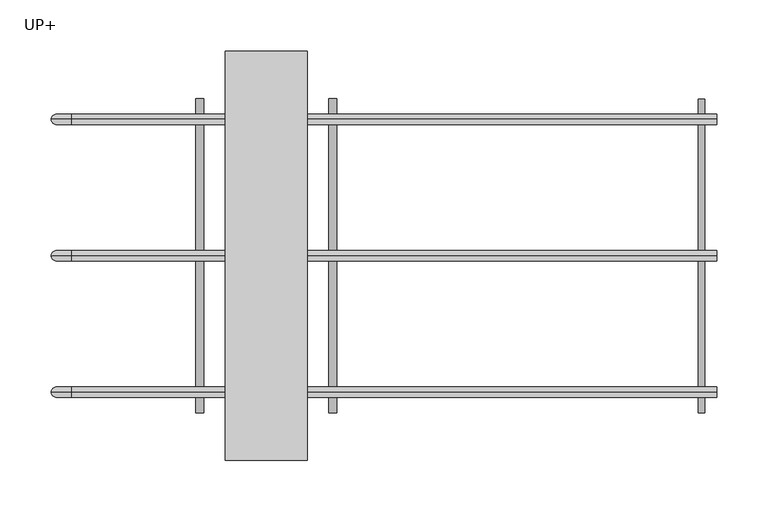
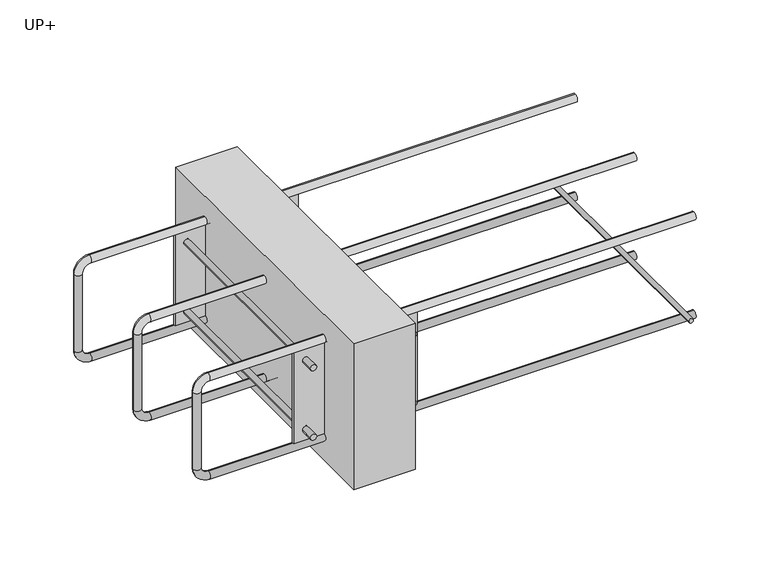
"""IFC4 building model written with IfcOpenShell, lengths in millimetres: fastener geometry, ACINOXplus_Typenreihe_Ux-Ox : UP+."""

import ifcopenshell
import ifcopenshell.guid

model = None  # the IFC model being written
_history = None  # IfcOwnerHistory: only IFC2X3 demands one
_inside = {}  # id of a spatial element -> (the spatial element, [elements in it])
_under = {}  # id of a project, library or spatial element -> (it, [spatial elements below it])
_declared = {}  # id of a project -> (the project, [libraries it declares])
_typed = {}  # id of a type object -> (the type object, [elements of that type])
_made_of = {}  # id of a material, layer set ... -> (it, [elements and type objects made of it])


def new_model(schema):
    """Start an empty IFC model of exactly this schema.

    Asked for "IFC4X3", IfcOpenShell would pick the latest addendum, in which some entities
    have other attributes; the version numbers below select the first issue.
    IFC2X3 requires an IfcOwnerHistory on every rooted entity: one is made here for all.
    """
    global model, _history
    if schema == "IFC4X3":
        model = ifcopenshell.file(schema_version=(4, 3, 0, 0))
    else:
        model = ifcopenshell.file(schema=schema)
    _inside.clear()
    _under.clear()
    _declared.clear()
    _typed.clear()
    _made_of.clear()
    _history = None
    if model.schema == "IFC2X3":
        org = make("IfcOrganization", Name="unknown")
        user = make(
            "IfcPersonAndOrganization",
            ThePerson=make("IfcPerson", FamilyName="unknown"),
            TheOrganization=org,
        )
        app = make(
            "IfcApplication",
            ApplicationDeveloper=org,
            Version="unknown",
            ApplicationFullName="unknown",
            ApplicationIdentifier="unknown",
        )
        _history = make(
            "IfcOwnerHistory",
            OwningUser=user,
            OwningApplication=app,
            ChangeAction="ADDED",
            CreationDate=0,
        )
    return model


def make(cls, **values):
    """One entity of the class cls with the attributes given. An attribute that is None is left unset."""
    return model.create_entity(
        cls, **{name: value for name, value in values.items() if value is not None}
    )


def rooted(cls, **values):
    """An entity with a GlobalId (a new one), such as an element, a storey or a relation."""
    return make(cls, GlobalId=ifcopenshell.guid.new(), OwnerHistory=_history, **values)


def si_unit(unit_type, name, prefix=None):
    """IfcSIUnit, for example si_unit("LENGTHUNIT", "METRE", prefix="MILLI")."""
    return make("IfcSIUnit", UnitType=unit_type, Prefix=prefix, Name=name)


def assignment(units):
    """IfcUnitAssignment: the units of a project."""
    return None if units is None else make("IfcUnitAssignment", Units=units)


def point(xyz):
    """IfcCartesianPoint."""
    return None if xyz is None else make("IfcCartesianPoint", Coordinates=xyz)


def direction(xyz):
    """IfcDirection."""
    return None if xyz is None else make("IfcDirection", DirectionRatios=xyz)


def frame(location, z_axis=None, x_axis=None):
    """IfcAxis2Placement3D, a coordinate frame: its origin and axes. An axis left out is left unset."""
    return make(
        "IfcAxis2Placement3D",
        Location=point(location),
        Axis=direction(z_axis),
        RefDirection=direction(x_axis),
    )


def frame_2d(location, x_axis=None):
    """IfcAxis2Placement2D, a coordinate frame in the plane: its origin and x axis."""
    return make(
        "IfcAxis2Placement2D", Location=point(location), RefDirection=direction(x_axis)
    )


def origin():
    """The frame at (0, 0, 0) with its axes left unset."""
    return frame((0.0, 0.0, 0.0))


def place(relative_to, where):
    """IfcLocalPlacement: puts the frame where relative to a parent placement (None: the world)."""
    return make(
        "IfcLocalPlacement", PlacementRelTo=relative_to, RelativePlacement=where
    )


def context(
    kind, dimensions, precision=None, world=None, true_north=None, identifier=None
):
    """IfcGeometricRepresentationContext, for example the 3D "Model" context."""
    return make(
        "IfcGeometricRepresentationContext",
        ContextIdentifier=identifier,
        ContextType=kind,
        CoordinateSpaceDimension=dimensions,
        Precision=precision,
        WorldCoordinateSystem=world,
        TrueNorth=true_north,
    )


def project(units=None, contexts=None):
    """IfcProject with its units and contexts."""
    return rooted(
        "IfcProject",
        Name="project",
        RepresentationContexts=contexts,
        UnitsInContext=assignment(units),
    )


def spatial(cls, under=None, at=None, **own):
    """A site, building, storey or space (cls), placed at a placement, below another one or the project."""
    s = rooted(cls, ObjectPlacement=at, **own)
    if under is not None:
        _under.setdefault(under.id(), (under, []))[1].append(s)
    return s


def polyline(points):
    """IfcPolyline through the points."""
    return make("IfcPolyline", Points=[point(p) for p in points])


def circle_curve(where, radius):
    """IfcCircle in the frame where."""
    return make("IfcCircle", Position=where, Radius=radius)


def ellipse_curve(where, semi_axis1, semi_axis2):
    """IfcEllipse in the frame where."""
    return make(
        "IfcEllipse", Position=where, SemiAxis1=semi_axis1, SemiAxis2=semi_axis2
    )


def trimmed(basis, trim1, trim2, sense, master):
    """IfcTrimmedCurve: the piece of a basis curve between two trims."""
    return make(
        "IfcTrimmedCurve",
        BasisCurve=basis,
        Trim1=trim1,
        Trim2=trim2,
        SenseAgreement=sense,
        MasterRepresentation=master,
    )


def segment(curve, same_sense, transition):
    """IfcCompositeCurveSegment."""
    return make(
        "IfcCompositeCurveSegment",
        Transition=transition,
        SameSense=same_sense,
        ParentCurve=curve,
    )


def composite_curve(segments, self_intersect=None):
    """IfcCompositeCurve: segments joined end to end."""
    return make("IfcCompositeCurve", Segments=segments, SelfIntersect=self_intersect)


def outline(outer, holes=None, kind="AREA"):
    """IfcArbitraryClosedProfileDef: a profile drawn as a closed curve; with holes, ...WithVoids."""
    if holes is None:
        return make("IfcArbitraryClosedProfileDef", ProfileType=kind, OuterCurve=outer)
    return make(
        "IfcArbitraryProfileDefWithVoids",
        ProfileType=kind,
        OuterCurve=outer,
        InnerCurves=holes,
    )


def extrude(swept, where, along, depth):
    """IfcExtrudedAreaSolid: the profile swept, set in the frame where, extruded along a direction by depth."""
    return make(
        "IfcExtrudedAreaSolid",
        SweptArea=swept,
        Position=where,
        ExtrudedDirection=direction(along),
        Depth=depth,
    )


def shape(context_of_items, identifier, shape_type, items):
    """IfcShapeRepresentation: the items that make up one representation, for example the "Body"."""
    return make(
        "IfcShapeRepresentation",
        ContextOfItems=context_of_items,
        RepresentationIdentifier=identifier,
        RepresentationType=shape_type,
        Items=items,
    )


def source(mapping_origin, context_of_items, identifier, shape_type, items):
    """IfcRepresentationMap: a shape defined once, which mapped items show again and again."""
    return make(
        "IfcRepresentationMap",
        MappingOrigin=mapping_origin,
        MappedRepresentation=shape(context_of_items, identifier, shape_type, items),
    )


def transform(
    local_origin,
    x_axis=None,
    y_axis=None,
    z_axis=None,
    scale=None,
    scale2=None,
    scale3=None,
    uniform=True,
):
    """IfcCartesianTransformationOperator3D, or its non-uniform kind. x_axis, y_axis, z_axis: its Axis1, 2, 3."""
    if uniform:
        return make(
            "IfcCartesianTransformationOperator3D",
            Axis1=direction(x_axis),
            Axis2=direction(y_axis),
            LocalOrigin=point(local_origin),
            Scale=scale,
            Axis3=direction(z_axis),
        )
    return make(
        "IfcCartesianTransformationOperator3DnonUniform",
        Axis1=direction(x_axis),
        Axis2=direction(y_axis),
        LocalOrigin=point(local_origin),
        Scale=scale,
        Axis3=direction(z_axis),
        Scale2=scale2,
        Scale3=scale3,
    )


def mapped(mapping_source, mapping_target):
    """IfcMappedItem: shows the shape of a source again, moved by a transform."""
    return make(
        "IfcMappedItem", MappingSource=mapping_source, MappingTarget=mapping_target
    )


def made_of(thing, what):
    """Note that an element or type object is made of a material, layer set ...; save() writes the relation."""
    if what is not None:
        _made_of.setdefault(what.id(), (what, []))[1].append(thing)
    return thing


def element(
    cls,
    number,
    at=None,
    inside=None,
    cuts=None,
    type_object=None,
    material=None,
    context=None,
    identifier="Body",
    shape_type=None,
    held_by="IfcProductDefinitionShape",
    body=None,
    shapes=None,
    **own,
):
    """One element of the class cls, such as IfcWall. Its Tag is "e" and its number.

    at: its placement. inside: the storey or other place that contains it. cuts: it is an
    opening in that element (IfcRelVoidsElement). A single representation is given by context,
    identifier, shape_type and body (its items); several are given by shapes. held_by: the class
    of the entity that holds the representations. save() writes the other relations.
    """
    e = rooted(cls, Tag="e%d" % number, ObjectPlacement=at, **own)
    if body is not None:
        shapes = [shape(context, identifier, shape_type, body)]
    if shapes is not None:
        e.Representation = make(held_by, Representations=shapes)
    if inside is not None:
        _inside.setdefault(inside.id(), (inside, []))[1].append(e)
    if cuts is not None:
        rooted(
            "IfcRelVoidsElement", RelatingBuildingElement=cuts, RelatedOpeningElement=e
        )
    if type_object is not None:
        _typed.setdefault(type_object.id(), (type_object, []))[1].append(e)
    return made_of(e, material)


def aggregate(whole, parts):
    """IfcRelAggregates: a whole, such as a stair, and the parts it consists of."""
    return rooted("IfcRelAggregates", RelatingObject=whole, RelatedObjects=parts)


def save(model, path):
    """Write the relations noted so far, then the file.

    IfcRelAggregates (storeys below a building ...), IfcRelContainedInSpatialStructure (elements
    in a storey), IfcRelDefinesByType, IfcRelAssociatesMaterial and IfcRelDeclares: one each for
    every whole, place, type object, material and project.
    """
    for whole, parts in _under.values():
        aggregate(whole, parts)
    for where, things in _inside.values():
        rooted(
            "IfcRelContainedInSpatialStructure",
            RelatedElements=things,
            RelatingStructure=where,
        )
    for kind, things in _typed.values():
        rooted("IfcRelDefinesByType", RelatedObjects=things, RelatingType=kind)
    for what, things in _made_of.values():
        rooted("IfcRelAssociatesMaterial", RelatedObjects=things, RelatingMaterial=what)
    for by, libraries in _declared.values():
        rooted("IfcRelDeclares", RelatingContext=by, RelatedDefinitions=libraries)
    model.write(path)


def plane_surface(at):
    """IfcPlane: the flat surface through the origin of the frame at, square to its z axis."""
    return make("IfcPlane", Position=at)


def cylinder_surface(at, radius):
    """IfcCylindricalSurface: all points at the distance radius from the z axis of the frame at."""
    return make("IfcCylindricalSurface", Position=at, Radius=radius)


def revolved_surface(curve, axis_point, axis_direction):
    """IfcSurfaceOfRevolution: the curve turned about the line through axis_point along axis_direction."""
    return make(
        "IfcSurfaceOfRevolution",
        SweptCurve=make("IfcArbitraryOpenProfileDef", ProfileType="CURVE", Curve=curve),
        AxisPosition=make("IfcAxis1Placement", Location=point(axis_point), Axis=direction(axis_direction)),
    )


def advanced_brep(points, edges, surfaces, faces):
    """IfcAdvancedBrep: a solid bounded by faces that lie on surfaces and meet in shared edges.

    An edge is (start, end): straight between two places in points (the first is 0);
    or (start, end, curve); or (start, end, curve, False) where it runs against its curve.
    A face is (place in surfaces, loops), or (place, loops, False) where it looks against
    its surface's normal. A loop lists edges by number (the first is 1), with a minus sign
    where the edge is run from its end to its start. The first loop is the outer one.
    """
    corners = [point(p) for p in points]
    vertices = [make("IfcVertexPoint", VertexGeometry=c) for c in corners]
    made = []
    for start, end, *more in edges:
        made.append(
            make(
                "IfcEdgeCurve",
                EdgeStart=vertices[start],
                EdgeEnd=vertices[end],
                EdgeGeometry=more[0] if more else make("IfcPolyline", Points=[corners[start], corners[end]]),
                SameSense=more[1] if len(more) > 1 else True,
            )
        )
    hull = []
    for where, loops, *sense in faces:
        bounds = []
        for j, loop in enumerate(loops):
            ring = [make("IfcOrientedEdge", EdgeElement=made[abs(k) - 1], Orientation=k > 0) for k in loop]
            bounds.append(
                make(
                    "IfcFaceOuterBound" if j == 0 else "IfcFaceBound",
                    Bound=make("IfcEdgeLoop", EdgeList=ring),
                    Orientation=True,
                )
            )
        hull.append(make("IfcAdvancedFace", Bounds=bounds, FaceSurface=surfaces[where], SameSense=sense[0] if sense else True))
    return make("IfcAdvancedBrep", Outer=make("IfcClosedShell", CfsFaces=hull))


def up_cd055a8a(model_context):
    return source(origin(), model_context, "Body", "SolidModel", [
        extrude(outline(composite_curve([segment(trimmed(circle_curve(frame_2d((-159.5, 425.0)), 3.0), [point((-159.5, 428.0))], [point((-159.5, 422.0))], False, "CARTESIAN"), True, "CONTINUOUS"), segment(trimmed(circle_curve(frame_2d((-159.5, 425.0)), 3.0), [point((-159.5, 422.0))], [point((-159.5, 428.0))], False, "CARTESIAN"), True, "CONTINUOUS")], self_intersect=False)), frame((0.0, -153.3333333, 0.0), z_axis=(0.0, 1.0, 0.0), x_axis=(0.0, 0.0, 1.0)), (0.0, 0.0, 1.0), 306.6666667),
        extrude(outline(polyline([(40.0, 200.0), (40.0, -200.0), (-40.0, -200.0), (-40.0, 200.0), (40.0, 200.0)])), frame((0.0, 0.0, -200.0), z_axis=(0.0, 0.0, 1.0), x_axis=(1.0, 0.0, 0.0)), (0.0, 0.0, 1.0), 200.0),
        extrude(outline(polyline([(80.0, -131.8333333), (80.0, -134.8333333), (-80.0, -134.8333333), (-80.0, -131.8333333), (80.0, -131.8333333)])), frame((0.0, 0.0, -162.5), z_axis=(0.0, 0.0, 1.0), x_axis=(1.0, 0.0, 0.0)), (0.0, 0.0, 1.0), 125.0),
        extrude(outline(polyline([(80.0, 134.8333333), (80.0, 131.8333333), (-80.0, 131.8333333), (-80.0, 134.8333333), (80.0, 134.8333333)])), frame((0.0, 0.0, -162.5), z_axis=(0.0, 0.0, 1.0), x_axis=(1.0, 0.0, 0.0)), (0.0, 0.0, 1.0), 125.0),
        extrude(outline(composite_curve([segment(trimmed(circle_curve(frame_2d((-147.5, -65.0)), 4.0), [point((-147.5, -69.0))], [point((-147.5, -61.0))], False, "CARTESIAN"), True, "CONTINUOUS"), segment(trimmed(circle_curve(frame_2d((-147.5, -65.0)), 4.0), [point((-147.5, -61.0))], [point((-147.5, -69.0))], False, "CARTESIAN"), True, "CONTINUOUS")], self_intersect=False)), frame((0.0, 134.8333333, 0.0), z_axis=(0.0, 1.0, 0.0), x_axis=(0.0, 0.0, 1.0)), (0.0, 0.0, 1.0), 18.5),
        extrude(outline(composite_curve([segment(trimmed(circle_curve(frame_2d((-147.5, -65.0)), 4.0), [point((-147.5, -61.0))], [point((-147.5, -69.0))], False, "CARTESIAN"), True, "CONTINUOUS"), segment(trimmed(circle_curve(frame_2d((-147.5, -65.0)), 4.0), [point((-147.5, -69.0))], [point((-147.5, -61.0))], False, "CARTESIAN"), True, "CONTINUOUS")], self_intersect=False)), frame((0.0, -153.3333333, 0.0), z_axis=(0.0, 1.0, 0.0), x_axis=(0.0, 0.0, 1.0)), (0.0, 0.0, 1.0), 18.5),
        extrude(outline(composite_curve([segment(trimmed(circle_curve(frame_2d((-147.5, -65.0)), 4.0), [point((-147.5, -69.0))], [point((-147.5, -61.0))], False, "CARTESIAN"), True, "CONTINUOUS"), segment(trimmed(circle_curve(frame_2d((-147.5, -65.0)), 4.0), [point((-147.5, -61.0))], [point((-147.5, -69.0))], False, "CARTESIAN"), True, "CONTINUOUS")], self_intersect=False)), frame((0.0, -131.8333333, 0.0), z_axis=(0.0, 1.0, 0.0), x_axis=(0.0, 0.0, 1.0)), (0.0, 0.0, 1.0), 263.6666667),
        extrude(outline(composite_curve([segment(trimmed(circle_curve(frame_2d((-147.5, 65.0)), 4.0), [point((-147.5, 61.0))], [point((-147.5, 69.0))], False, "CARTESIAN"), True, "CONTINUOUS"), segment(trimmed(circle_curve(frame_2d((-147.5, 65.0)), 4.0), [point((-147.5, 69.0))], [point((-147.5, 61.0))], False, "CARTESIAN"), True, "CONTINUOUS")], self_intersect=False)), frame((0.0, 134.8333333, 0.0), z_axis=(0.0, 1.0, 0.0), x_axis=(0.0, 0.0, 1.0)), (0.0, 0.0, 1.0), 18.5),
        extrude(outline(composite_curve([segment(trimmed(circle_curve(frame_2d((-147.5, 65.0)), 4.0), [point((-147.5, 69.0))], [point((-147.5, 61.0))], False, "CARTESIAN"), True, "CONTINUOUS"), segment(trimmed(circle_curve(frame_2d((-147.5, 65.0)), 4.0), [point((-147.5, 61.0))], [point((-147.5, 69.0))], False, "CARTESIAN"), True, "CONTINUOUS")], self_intersect=False)), frame((0.0, -153.3333333, 0.0), z_axis=(0.0, 1.0, 0.0), x_axis=(0.0, 0.0, 1.0)), (0.0, 0.0, 1.0), 18.5),
        extrude(outline(composite_curve([segment(trimmed(circle_curve(frame_2d((-147.5, 65.0)), 4.0), [point((-147.5, 61.0))], [point((-147.5, 69.0))], False, "CARTESIAN"), True, "CONTINUOUS"), segment(trimmed(circle_curve(frame_2d((-147.5, 65.0)), 4.0), [point((-147.5, 69.0))], [point((-147.5, 61.0))], False, "CARTESIAN"), True, "CONTINUOUS")], self_intersect=False)), frame((0.0, -131.8333333, 0.0), z_axis=(0.0, 1.0, 0.0), x_axis=(0.0, 0.0, 1.0)), (0.0, 0.0, 1.0), 263.6666667),
        extrude(outline(composite_curve([segment(trimmed(circle_curve(frame_2d((-52.5, -65.0)), 4.0), [point((-52.5, -69.0))], [point((-52.5, -61.0))], False, "CARTESIAN"), True, "CONTINUOUS"), segment(trimmed(circle_curve(frame_2d((-52.5, -65.0)), 4.0), [point((-52.5, -61.0))], [point((-52.5, -69.0))], False, "CARTESIAN"), True, "CONTINUOUS")], self_intersect=False)), frame((0.0, 134.8333333, 0.0), z_axis=(0.0, 1.0, 0.0), x_axis=(0.0, 0.0, 1.0)), (0.0, 0.0, 1.0), 18.5),
        extrude(outline(composite_curve([segment(trimmed(circle_curve(frame_2d((-52.5, -65.0)), 4.0), [point((-52.5, -61.0))], [point((-52.5, -69.0))], False, "CARTESIAN"), True, "CONTINUOUS"), segment(trimmed(circle_curve(frame_2d((-52.5, -65.0)), 4.0), [point((-52.5, -69.0))], [point((-52.5, -61.0))], False, "CARTESIAN"), True, "CONTINUOUS")], self_intersect=False)), frame((0.0, -153.3333333, 0.0), z_axis=(0.0, 1.0, 0.0), x_axis=(0.0, 0.0, 1.0)), (0.0, 0.0, 1.0), 18.5),
        extrude(outline(composite_curve([segment(trimmed(circle_curve(frame_2d((-52.5, -65.0)), 4.0), [point((-52.5, -69.0))], [point((-52.5, -61.0))], False, "CARTESIAN"), True, "CONTINUOUS"), segment(trimmed(circle_curve(frame_2d((-52.5, -65.0)), 4.0), [point((-52.5, -61.0))], [point((-52.5, -69.0))], False, "CARTESIAN"), True, "CONTINUOUS")], self_intersect=False)), frame((0.0, -131.8333333, 0.0), z_axis=(0.0, 1.0, 0.0), x_axis=(0.0, 0.0, 1.0)), (0.0, 0.0, 1.0), 263.6666667),
        extrude(outline(composite_curve([segment(trimmed(circle_curve(frame_2d((-52.5, 65.0)), 4.0), [point((-52.5, 61.0))], [point((-52.5, 69.0))], False, "CARTESIAN"), True, "CONTINUOUS"), segment(trimmed(circle_curve(frame_2d((-52.5, 65.0)), 4.0), [point((-52.5, 69.0))], [point((-52.5, 61.0))], False, "CARTESIAN"), True, "CONTINUOUS")], self_intersect=False)), frame((0.0, 134.8333333, 0.0), z_axis=(0.0, 1.0, 0.0), x_axis=(0.0, 0.0, 1.0)), (0.0, 0.0, 1.0), 18.5),
        extrude(outline(composite_curve([segment(trimmed(circle_curve(frame_2d((-52.5, 65.0)), 4.0), [point((-52.5, 69.0))], [point((-52.5, 61.0))], False, "CARTESIAN"), True, "CONTINUOUS"), segment(trimmed(circle_curve(frame_2d((-52.5, 65.0)), 4.0), [point((-52.5, 61.0))], [point((-52.5, 69.0))], False, "CARTESIAN"), True, "CONTINUOUS")], self_intersect=False)), frame((0.0, -153.3333333, 0.0), z_axis=(0.0, 1.0, 0.0), x_axis=(0.0, 0.0, 1.0)), (0.0, 0.0, 1.0), 18.5),
        extrude(outline(composite_curve([segment(trimmed(circle_curve(frame_2d((-52.5, 65.0)), 4.0), [point((-52.5, 61.0))], [point((-52.5, 69.0))], False, "CARTESIAN"), True, "CONTINUOUS"), segment(trimmed(circle_curve(frame_2d((-52.5, 65.0)), 4.0), [point((-52.5, 69.0))], [point((-52.5, 61.0))], False, "CARTESIAN"), True, "CONTINUOUS")], self_intersect=False)), frame((0.0, -131.8333333, 0.0), z_axis=(0.0, 1.0, 0.0), x_axis=(0.0, 0.0, 1.0)), (0.0, 0.0, 1.0), 263.6666667),
        advanced_brep(
        [(440.0, 0.0, -27.5), (440.0, 0.0, -37.5), (-190.0, 0.0, -27.5), (-190.0, 0.0, -37.5), (-200.0, 0.0, -47.5), (-210.0, 0.0, -47.5), (-210.0, 0.0, -152.5), (-200.0, 0.0, -152.5), (-190.0, 0.0, -162.5), (-190.0, 0.0, -172.5), (440.0, 0.0, -172.5), (440.0, 0.0, -162.5)],
        [
            (0, 1, circle_curve(frame((440.0, 0.0, -32.5), z_axis=(1.0, 0.0, 0.0), x_axis=(0.0, 0.0, -1.0)), 5.0)),
            (1, 0, circle_curve(frame((440.0, 0.0, -32.5), z_axis=(1.0, 0.0, 0.0), x_axis=(0.0, 0.0, -1.0)), 5.0)),
            (0, 2),
            (2, 3, circle_curve(frame((-190.0, 0.0, -32.5), z_axis=(1.0, 0.0, 0.0), x_axis=(0.0, 0.0, -1.0)), 5.0)),
            (3, 1),
            (3, 2, circle_curve(frame((-190.0, 0.0, -32.5), z_axis=(1.0, 0.0, 0.0), x_axis=(0.0, 0.0, -1.0)), 5.0)),
            (4, 3, circle_curve(frame((-190.0, 0.0, -47.5), z_axis=(0.0, 1.0, 0.0), x_axis=(0.0, 0.0, 1.0)), 10.0)),
            (2, 5, circle_curve(frame((-190.0, 0.0, -47.5), z_axis=(0.0, -1.0, 0.0), x_axis=(0.0, 0.0, 1.0)), 20.0)),
            (5, 4, circle_curve(frame((-205.0, 0.0, -47.5), z_axis=(0.0, 0.0, 1.0), x_axis=(1.0, 0.0, 0.0)), 5.0)),
            (4, 5, circle_curve(frame((-205.0, 0.0, -47.5), z_axis=(0.0, 0.0, 1.0), x_axis=(1.0, 0.0, 0.0)), 5.0)),
            (5, 6),
            (6, 7, circle_curve(frame((-205.0, 0.0, -152.5), z_axis=(0.0, 0.0, 1.0), x_axis=(1.0, 0.0, 0.0)), 5.0)),
            (7, 4),
            (7, 6, circle_curve(frame((-205.0, 0.0, -152.5), z_axis=(0.0, 0.0, 1.0), x_axis=(1.0, 0.0, 0.0)), 5.0)),
            (8, 7, circle_curve(frame((-190.0, 0.0, -152.5), z_axis=(0.0, 1.0, 0.0), x_axis=(-1.0, 0.0, 0.0)), 10.0)),
            (6, 9, circle_curve(frame((-190.0, 0.0, -152.5), z_axis=(0.0, -1.0, 0.0), x_axis=(-1.0, 0.0, 0.0)), 20.0)),
            (9, 8, circle_curve(frame((-190.0, 0.0, -167.5), z_axis=(-1.0, 0.0, 0.0), x_axis=(0.0, 0.0, 1.0)), 5.0)),
            (8, 9, circle_curve(frame((-190.0, 0.0, -167.5), z_axis=(-1.0, 0.0, 0.0), x_axis=(0.0, 0.0, 1.0)), 5.0)),
            (10, 11, circle_curve(frame((440.0, 0.0, -167.5), z_axis=(1.0, 0.0, 0.0), x_axis=(0.0, 0.0, 1.0)), 5.0)),
            (11, 10, circle_curve(frame((440.0, 0.0, -167.5), z_axis=(1.0, 0.0, 0.0), x_axis=(0.0, 0.0, 1.0)), 5.0)),
            (9, 10),
            (11, 8),
        ],
        [
            plane_surface(frame((440.0, 0.0, -32.5), z_axis=(1.0, 0.0, 0.0), x_axis=(0.0, -1.0, 0.0))),
            cylinder_surface(frame((440.0, 0.0, -32.5), z_axis=(1.0, 0.0, 0.0), x_axis=(0.0, 0.0, -1.0)), 5.0),
            revolved_surface(trimmed(ellipse_curve(frame((-190.0, 0.0, -32.5), z_axis=(1.0, 0.0, 0.0), x_axis=(0.0, 0.0, -1.0)), 5.0, 5.0), [point((-190.0, 0.0, -27.5))], [point((-190.0, 0.0, -37.5))], True, "CARTESIAN"), (-190.0, 0.0, -47.5), (0.0, -1.0, 0.0)),
            revolved_surface(trimmed(ellipse_curve(frame((-190.0, 0.0, -32.5), z_axis=(1.0, 0.0, 0.0), x_axis=(0.0, 0.0, -1.0)), 5.0, 5.0), [point((-190.0, 0.0, -37.5))], [point((-190.0, 0.0, -27.5))], True, "CARTESIAN"), (-190.0, 0.0, -47.5), (0.0, -1.0, 0.0)),
            cylinder_surface(frame((-205.0, 0.0, -47.5), z_axis=(0.0, 0.0, 1.0), x_axis=(1.0, 0.0, 0.0)), 5.0),
            revolved_surface(trimmed(ellipse_curve(frame((-205.0, 0.0, -152.5), z_axis=(0.0, 0.0, 1.0), x_axis=(1.0, 0.0, 0.0)), 5.0, 5.0), [point((-210.0, 0.0, -152.5))], [point((-200.0, 0.0, -152.5))], True, "CARTESIAN"), (-190.0, 0.0, -152.5), (0.0, -1.0, 0.0)),
            revolved_surface(trimmed(ellipse_curve(frame((-205.0, 0.0, -152.5), z_axis=(0.0, 0.0, 1.0), x_axis=(1.0, 0.0, 0.0)), 5.0, 5.0), [point((-200.0, 0.0, -152.5))], [point((-210.0, 0.0, -152.5))], True, "CARTESIAN"), (-190.0, 0.0, -152.5), (0.0, -1.0, 0.0)),
            plane_surface(frame((440.0, 0.0, -167.5), z_axis=(1.0, 0.0, 0.0), x_axis=(0.0, -1.0, 0.0))),
            cylinder_surface(frame((-190.0, 0.0, -167.5), z_axis=(-1.0, 0.0, 0.0), x_axis=(0.0, 0.0, 1.0)), 5.0),
        ],
        [
            (0, [[1, 2]]),
            (1, [[-1, 3, 4, 5]]),
            (1, [[-2, -5, 6, -3]]),
            (2, [[7, -4, 8, 9]]),
            (3, [[-8, -6, -7, 10]]),
            (4, [[-9, 11, 12, 13]]),
            (4, [[-10, -13, 14, -11]]),
            (5, [[15, -12, 16, 17]]),
            (6, [[-16, -14, -15, 18]]),
            (7, [[19, 20]]),
            (8, [[-17, 21, -20, 22]]),
            (8, [[-18, -22, -19, -21]]),
        ],
    ),
        advanced_brep(
        [(440.0, 133.3333333, -27.5), (440.0, 133.3333333, -37.5), (-190.0, 133.3333333, -27.5), (-190.0, 133.3333333, -37.5), (-200.0, 133.3333333, -47.5), (-210.0, 133.3333333, -47.5), (-210.0, 133.3333333, -152.5), (-200.0, 133.3333333, -152.5), (-190.0, 133.3333333, -162.5), (-190.0, 133.3333333, -172.5), (440.0, 133.3333333, -172.5), (440.0, 133.3333333, -162.5)],
        [
            (0, 1, circle_curve(frame((440.0, 133.3333333, -32.5), z_axis=(1.0, 0.0, 0.0), x_axis=(0.0, 0.0, -1.0)), 5.0)),
            (1, 0, circle_curve(frame((440.0, 133.3333333, -32.5), z_axis=(1.0, 0.0, 0.0), x_axis=(0.0, 0.0, -1.0)), 5.0)),
            (0, 2),
            (2, 3, circle_curve(frame((-190.0, 133.3333333, -32.5), z_axis=(1.0, 0.0, 0.0), x_axis=(0.0, 0.0, -1.0)), 5.0)),
            (3, 1),
            (3, 2, circle_curve(frame((-190.0, 133.3333333, -32.5), z_axis=(1.0, 0.0, 0.0), x_axis=(0.0, 0.0, -1.0)), 5.0)),
            (4, 3, circle_curve(frame((-190.0, 133.3333333, -47.5), z_axis=(0.0, 1.0, 0.0), x_axis=(0.0, 0.0, 1.0)), 10.0)),
            (2, 5, circle_curve(frame((-190.0, 133.3333333, -47.5), z_axis=(0.0, -1.0, 0.0), x_axis=(0.0, 0.0, 1.0)), 20.0)),
            (5, 4, circle_curve(frame((-205.0, 133.3333333, -47.5), z_axis=(0.0, 0.0, 1.0), x_axis=(1.0, 0.0, 0.0)), 5.0)),
            (4, 5, circle_curve(frame((-205.0, 133.3333333, -47.5), z_axis=(0.0, 0.0, 1.0), x_axis=(1.0, 0.0, 0.0)), 5.0)),
            (5, 6),
            (6, 7, circle_curve(frame((-205.0, 133.3333333, -152.5), z_axis=(0.0, 0.0, 1.0), x_axis=(1.0, 0.0, 0.0)), 5.0)),
            (7, 4),
            (7, 6, circle_curve(frame((-205.0, 133.3333333, -152.5), z_axis=(0.0, 0.0, 1.0), x_axis=(1.0, 0.0, 0.0)), 5.0)),
            (8, 7, circle_curve(frame((-190.0, 133.3333333, -152.5), z_axis=(0.0, 1.0, 0.0), x_axis=(-1.0, 0.0, 0.0)), 10.0)),
            (6, 9, circle_curve(frame((-190.0, 133.3333333, -152.5), z_axis=(0.0, -1.0, 0.0), x_axis=(-1.0, 0.0, 0.0)), 20.0)),
            (9, 8, circle_curve(frame((-190.0, 133.3333333, -167.5), z_axis=(-1.0, 0.0, 0.0), x_axis=(0.0, 0.0, 1.0)), 5.0)),
            (8, 9, circle_curve(frame((-190.0, 133.3333333, -167.5), z_axis=(-1.0, 0.0, 0.0), x_axis=(0.0, 0.0, 1.0)), 5.0)),
            (10, 11, circle_curve(frame((440.0, 133.3333333, -167.5), z_axis=(1.0, 0.0, 0.0), x_axis=(0.0, 0.0, 1.0)), 5.0)),
            (11, 10, circle_curve(frame((440.0, 133.3333333, -167.5), z_axis=(1.0, 0.0, 0.0), x_axis=(0.0, 0.0, 1.0)), 5.0)),
            (9, 10),
            (11, 8),
        ],
        [
            plane_surface(frame((440.0, 133.3333333, -32.5), z_axis=(1.0, 0.0, 0.0), x_axis=(0.0, -1.0, 0.0))),
            cylinder_surface(frame((440.0, 133.3333333, -32.5), z_axis=(1.0, 0.0, 0.0), x_axis=(0.0, 0.0, -1.0)), 5.0),
            revolved_surface(trimmed(ellipse_curve(frame((-190.0, 133.3333333, -32.5), z_axis=(1.0, 0.0, 0.0), x_axis=(0.0, 0.0, -1.0)), 5.0, 5.0), [point((-190.0, 133.3333333, -27.5))], [point((-190.0, 133.3333333, -37.5))], True, "CARTESIAN"), (-190.0, 133.3333333, -47.5), (0.0, -1.0, 0.0)),
            revolved_surface(trimmed(ellipse_curve(frame((-190.0, 133.3333333, -32.5), z_axis=(1.0, 0.0, 0.0), x_axis=(0.0, 0.0, -1.0)), 5.0, 5.0), [point((-190.0, 133.3333333, -37.5))], [point((-190.0, 133.3333333, -27.5))], True, "CARTESIAN"), (-190.0, 133.3333333, -47.5), (0.0, -1.0, 0.0)),
            cylinder_surface(frame((-205.0, 133.3333333, -47.5), z_axis=(0.0, 0.0, 1.0), x_axis=(1.0, 0.0, 0.0)), 5.0),
            revolved_surface(trimmed(ellipse_curve(frame((-205.0, 133.3333333, -152.5), z_axis=(0.0, 0.0, 1.0), x_axis=(1.0, 0.0, 0.0)), 5.0, 5.0), [point((-210.0, 133.3333333, -152.5))], [point((-200.0, 133.3333333, -152.5))], True, "CARTESIAN"), (-190.0, 133.3333333, -152.5), (0.0, -1.0, 0.0)),
            revolved_surface(trimmed(ellipse_curve(frame((-205.0, 133.3333333, -152.5), z_axis=(0.0, 0.0, 1.0), x_axis=(1.0, 0.0, 0.0)), 5.0, 5.0), [point((-200.0, 133.3333333, -152.5))], [point((-210.0, 133.3333333, -152.5))], True, "CARTESIAN"), (-190.0, 133.3333333, -152.5), (0.0, -1.0, 0.0)),
            plane_surface(frame((440.0, 133.3333333, -167.5), z_axis=(1.0, 0.0, 0.0), x_axis=(0.0, -1.0, 0.0))),
            cylinder_surface(frame((-190.0, 133.3333333, -167.5), z_axis=(-1.0, 0.0, 0.0), x_axis=(0.0, 0.0, 1.0)), 5.0),
        ],
        [
            (0, [[1, 2]]),
            (1, [[-1, 3, 4, 5]]),
            (1, [[-2, -5, 6, -3]]),
            (2, [[7, -4, 8, 9]]),
            (3, [[-8, -6, -7, 10]]),
            (4, [[-9, 11, 12, 13]]),
            (4, [[-10, -13, 14, -11]]),
            (5, [[15, -12, 16, 17]]),
            (6, [[-16, -14, -15, 18]]),
            (7, [[19, 20]]),
            (8, [[-17, 21, -20, 22]]),
            (8, [[-18, -22, -19, -21]]),
        ],
    ),
        advanced_brep(
        [(440.0, -133.3333333, -27.5), (440.0, -133.3333333, -37.5), (-190.0, -133.3333333, -27.5), (-190.0, -133.3333333, -37.5), (-200.0, -133.3333333, -47.5), (-210.0, -133.3333333, -47.5), (-210.0, -133.3333333, -152.5), (-200.0, -133.3333333, -152.5), (-190.0, -133.3333333, -162.5), (-190.0, -133.3333333, -172.5), (440.0, -133.3333333, -172.5), (440.0, -133.3333333, -162.5)],
        [
            (0, 1, circle_curve(frame((440.0, -133.3333333, -32.5), z_axis=(1.0, 0.0, 0.0), x_axis=(0.0, 0.0, -1.0)), 5.0)),
            (1, 0, circle_curve(frame((440.0, -133.3333333, -32.5), z_axis=(1.0, 0.0, 0.0), x_axis=(0.0, 0.0, -1.0)), 5.0)),
            (0, 2),
            (2, 3, circle_curve(frame((-190.0, -133.3333333, -32.5), z_axis=(1.0, 0.0, 0.0), x_axis=(0.0, 0.0, -1.0)), 5.0)),
            (3, 1),
            (3, 2, circle_curve(frame((-190.0, -133.3333333, -32.5), z_axis=(1.0, 0.0, 0.0), x_axis=(0.0, 0.0, -1.0)), 5.0)),
            (4, 3, circle_curve(frame((-190.0, -133.3333333, -47.5), z_axis=(0.0, 1.0, 0.0), x_axis=(0.0, 0.0, 1.0)), 10.0)),
            (2, 5, circle_curve(frame((-190.0, -133.3333333, -47.5), z_axis=(0.0, -1.0, 0.0), x_axis=(0.0, 0.0, 1.0)), 20.0)),
            (5, 4, circle_curve(frame((-205.0, -133.3333333, -47.5), z_axis=(0.0, 0.0, 1.0), x_axis=(1.0, 0.0, 0.0)), 5.0)),
            (4, 5, circle_curve(frame((-205.0, -133.3333333, -47.5), z_axis=(0.0, 0.0, 1.0), x_axis=(1.0, 0.0, 0.0)), 5.0)),
            (5, 6),
            (6, 7, circle_curve(frame((-205.0, -133.3333333, -152.5), z_axis=(0.0, 0.0, 1.0), x_axis=(1.0, 0.0, 0.0)), 5.0)),
            (7, 4),
            (7, 6, circle_curve(frame((-205.0, -133.3333333, -152.5), z_axis=(0.0, 0.0, 1.0), x_axis=(1.0, 0.0, 0.0)), 5.0)),
            (8, 7, circle_curve(frame((-190.0, -133.3333333, -152.5), z_axis=(0.0, 1.0, 0.0), x_axis=(-1.0, 0.0, 0.0)), 10.0)),
            (6, 9, circle_curve(frame((-190.0, -133.3333333, -152.5), z_axis=(0.0, -1.0, 0.0), x_axis=(-1.0, 0.0, 0.0)), 20.0)),
            (9, 8, circle_curve(frame((-190.0, -133.3333333, -167.5), z_axis=(-1.0, 0.0, 0.0), x_axis=(0.0, 0.0, 1.0)), 5.0)),
            (8, 9, circle_curve(frame((-190.0, -133.3333333, -167.5), z_axis=(-1.0, 0.0, 0.0), x_axis=(0.0, 0.0, 1.0)), 5.0)),
            (10, 11, circle_curve(frame((440.0, -133.3333333, -167.5), z_axis=(1.0, 0.0, 0.0), x_axis=(0.0, 0.0, 1.0)), 5.0)),
            (11, 10, circle_curve(frame((440.0, -133.3333333, -167.5), z_axis=(1.0, 0.0, 0.0), x_axis=(0.0, 0.0, 1.0)), 5.0)),
            (9, 10),
            (11, 8),
        ],
        [
            plane_surface(frame((440.0, -133.3333333, -32.5), z_axis=(1.0, 0.0, 0.0), x_axis=(0.0, -1.0, 0.0))),
            cylinder_surface(frame((440.0, -133.3333333, -32.5), z_axis=(1.0, 0.0, 0.0), x_axis=(0.0, 0.0, -1.0)), 5.0),
            revolved_surface(trimmed(ellipse_curve(frame((-190.0, -133.3333333, -32.5), z_axis=(1.0, 0.0, 0.0), x_axis=(0.0, 0.0, -1.0)), 5.0, 5.0), [point((-190.0, -133.3333333, -27.5))], [point((-190.0, -133.3333333, -37.5))], True, "CARTESIAN"), (-190.0, -133.3333333, -47.5), (0.0, -1.0, 0.0)),
            revolved_surface(trimmed(ellipse_curve(frame((-190.0, -133.3333333, -32.5), z_axis=(1.0, 0.0, 0.0), x_axis=(0.0, 0.0, -1.0)), 5.0, 5.0), [point((-190.0, -133.3333333, -37.5))], [point((-190.0, -133.3333333, -27.5))], True, "CARTESIAN"), (-190.0, -133.3333333, -47.5), (0.0, -1.0, 0.0)),
            cylinder_surface(frame((-205.0, -133.3333333, -47.5), z_axis=(0.0, 0.0, 1.0), x_axis=(1.0, 0.0, 0.0)), 5.0),
            revolved_surface(trimmed(ellipse_curve(frame((-205.0, -133.3333333, -152.5), z_axis=(0.0, 0.0, 1.0), x_axis=(1.0, 0.0, 0.0)), 5.0, 5.0), [point((-210.0, -133.3333333, -152.5))], [point((-200.0, -133.3333333, -152.5))], True, "CARTESIAN"), (-190.0, -133.3333333, -152.5), (0.0, -1.0, 0.0)),
            revolved_surface(trimmed(ellipse_curve(frame((-205.0, -133.3333333, -152.5), z_axis=(0.0, 0.0, 1.0), x_axis=(1.0, 0.0, 0.0)), 5.0, 5.0), [point((-200.0, -133.3333333, -152.5))], [point((-210.0, -133.3333333, -152.5))], True, "CARTESIAN"), (-190.0, -133.3333333, -152.5), (0.0, -1.0, 0.0)),
            plane_surface(frame((440.0, -133.3333333, -167.5), z_axis=(1.0, 0.0, 0.0), x_axis=(0.0, -1.0, 0.0))),
            cylinder_surface(frame((-190.0, -133.3333333, -167.5), z_axis=(-1.0, 0.0, 0.0), x_axis=(0.0, 0.0, 1.0)), 5.0),
        ],
        [
            (0, [[1, 2]]),
            (1, [[-1, 3, 4, 5]]),
            (1, [[-2, -5, 6, -3]]),
            (2, [[7, -4, 8, 9]]),
            (3, [[-8, -6, -7, 10]]),
            (4, [[-9, 11, 12, 13]]),
            (4, [[-10, -13, 14, -11]]),
            (5, [[15, -12, 16, 17]]),
            (6, [[-16, -14, -15, 18]]),
            (7, [[19, 20]]),
            (8, [[-17, 21, -20, 22]]),
            (8, [[-18, -22, -19, -21]]),
        ],
    ),
    ])


if __name__ == "__main__":
    model = new_model("IFC4")
    model_context = context("Model", 3, world=origin())
    ifc_project = project(units=[si_unit("LENGTHUNIT", "METRE", prefix="MILLI")], contexts=[model_context])
    site = spatial("IfcSite", under=ifc_project)
    building = spatial("IfcBuilding", under=site)
    placement = place(None, origin())
    up_shape = up_cd055a8a(model_context)
    element("IfcFastener", 1, ObjectType="ACINOXplus_Typenreihe_Ux-Ox : UP+", at=placement, inside=building, context=model_context, shape_type="MappedRepresentation", body=[
        mapped(up_shape, transform((0.0, 0.0, 0.0), x_axis=(1.0, 0.0, 0.0), y_axis=(0.0, 1.0, 0.0), z_axis=(0.0, 0.0, 1.0))),
    ])
    save(model, "model.ifc")
